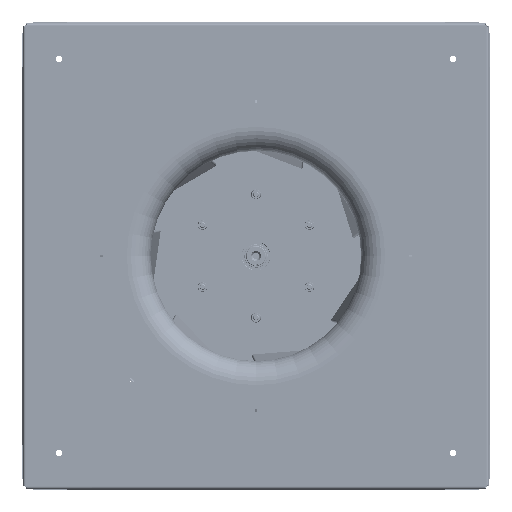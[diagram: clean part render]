
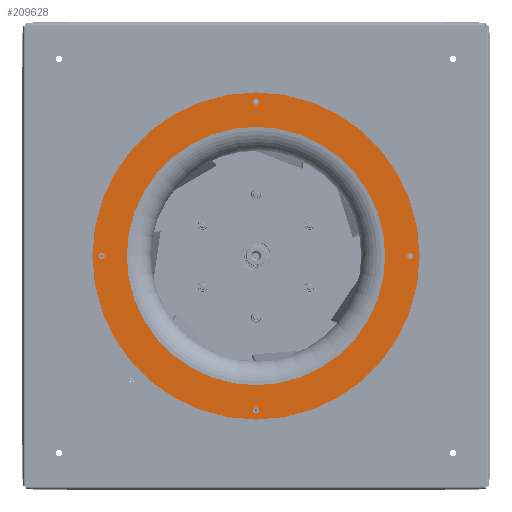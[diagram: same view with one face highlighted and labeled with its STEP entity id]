
A CAD part, front view. The second image highlights one B-rep face of the part: STEP entity #209628.
In plain terms, the highlighted planar face has unit normal (0, -1, 0) as drawn and (0, 0, 1) by its records, which use the part's own axes.
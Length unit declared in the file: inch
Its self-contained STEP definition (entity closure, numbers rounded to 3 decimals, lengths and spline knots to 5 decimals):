
#1523 = VERTEX_POINT ( 'NONE', #251458 ) ;
#1577 = DIRECTION ( 'NONE',  ( 0., 0., 1. ) ) ;
#3813 = AXIS2_PLACEMENT_3D ( 'NONE', #230648, #125898, #151287 ) ;
#6975 = CARTESIAN_POINT ( 'NONE',  ( 0.16732, 8.62205, 0. ) ) ;
#10372 = ORIENTED_EDGE ( 'NONE', *, *, #253133, .F. ) ;
#11961 = DIRECTION ( 'NONE',  ( 0., 0., 1. ) ) ;
#12713 = CARTESIAN_POINT ( 'NONE',  ( -7.21457, 0., 0. ) ) ;
#13969 = EDGE_CURVE ( 'NONE', #221953, #177735, #218700, .T. ) ;
#16168 = DIRECTION ( 'NONE',  ( 0., 0., 1. ) ) ;
#16776 = ORIENTED_EDGE ( 'NONE', *, *, #224734, .T. ) ;
#20802 = DIRECTION ( 'NONE',  ( 0., 0., 1. ) ) ;
#22500 = DIRECTION ( 'NONE',  ( 1., 0., 0. ) ) ;
#24568 = AXIS2_PLACEMENT_3D ( 'NONE', #122596, #16168, #193685 ) ;
#28400 = DIRECTION ( 'NONE',  ( 0., -1., 0. ) ) ;
#30239 = CARTESIAN_POINT ( 'NONE',  ( 9.13386, 0., 0. ) ) ;
#31761 = FACE_BOUND ( 'NONE', #266433, .T. ) ;
#32251 = AXIS2_PLACEMENT_3D ( 'NONE', #233144, #1577, #256834 ) ;
#35860 = CARTESIAN_POINT ( 'NONE',  ( 0., 0., 0. ) ) ;
#37544 = DIRECTION ( 'NONE',  ( 1., 0., 0. ) ) ;
#39710 = FACE_OUTER_BOUND ( 'NONE', #73704, .T. ) ;
#43337 = DIRECTION ( 'NONE',  ( 0., 0., 1. ) ) ;
#45141 = VERTEX_POINT ( 'NONE', #285716 ) ;
#47002 = DIRECTION ( 'NONE',  ( 1., 0., 0. ) ) ;
#47764 = AXIS2_PLACEMENT_3D ( 'NONE', #304632, #20802, #248963 ) ;
#48680 = EDGE_CURVE ( 'NONE', #70836, #187925, #49028, .T. ) ;
#49028 = CIRCLE ( 'NONE', #237866, 0.16732 ) ;
#51300 = AXIS2_PLACEMENT_3D ( 'NONE', #121040, #43337, #102357 ) ;
#51825 = CARTESIAN_POINT ( 'NONE',  ( -8.62205, 0., 0. ) ) ;
#52020 = CARTESIAN_POINT ( 'NONE',  ( -0.16732, -8.62205, 0. ) ) ;
#57725 = CARTESIAN_POINT ( 'NONE',  ( -8.62205, 0.16732, 0. ) ) ;
#65057 = FACE_BOUND ( 'NONE', #326275, .T. ) ;
#70836 = VERTEX_POINT ( 'NONE', #57725 ) ;
#71905 = EDGE_CURVE ( 'NONE', #315153, #45141, #264305, .T. ) ;
#73704 = EDGE_LOOP ( 'NONE', ( #16776, #135359 ) ) ;
#76566 = EDGE_CURVE ( 'NONE', #177735, #221953, #323901, .T. ) ;
#80395 = CARTESIAN_POINT ( 'NONE',  ( 8.62205, 0.16732, 0. ) ) ;
#83239 = AXIS2_PLACEMENT_3D ( 'NONE', #250681, #304692, #22500 ) ;
#83957 = CIRCLE ( 'NONE', #24568, 0.16732 ) ;
#84316 = CARTESIAN_POINT ( 'NONE',  ( 7.21457, 0., 0. ) ) ;
#87213 = EDGE_CURVE ( 'NONE', #205829, #142048, #94855, .T. ) ;
#94855 = CIRCLE ( 'NONE', #127134, 9.13386 ) ;
#95958 = AXIS2_PLACEMENT_3D ( 'NONE', #35860, #189658, #37544 ) ;
#102357 = DIRECTION ( 'NONE',  ( 1., 0., 0. ) ) ;
#111814 = VERTEX_POINT ( 'NONE', #84316 ) ;
#112616 = CIRCLE ( 'NONE', #47764, 0.16732 ) ;
#119888 = CARTESIAN_POINT ( 'NONE',  ( -9.13386, 0., 0. ) ) ;
#121040 = CARTESIAN_POINT ( 'NONE',  ( 0., 8.62205, 0. ) ) ;
#122596 = CARTESIAN_POINT ( 'NONE',  ( 8.62205, 0., 0. ) ) ;
#124415 = AXIS2_PLACEMENT_3D ( 'NONE', #246831, #11961, #219834 ) ;
#125898 = DIRECTION ( 'NONE',  ( 0., 0., 1. ) ) ;
#126344 = DIRECTION ( 'NONE',  ( 0., 0., 1. ) ) ;
#127134 = AXIS2_PLACEMENT_3D ( 'NONE', #138089, #241150, #301827 ) ;
#127857 = ORIENTED_EDGE ( 'NONE', *, *, #261963, .F. ) ;
#129493 = ORIENTED_EDGE ( 'NONE', *, *, #76566, .F. ) ;
#131729 = CIRCLE ( 'NONE', #83239, 7.21457 ) ;
#134852 = PLANE ( 'NONE',  #188840 ) ;
#135359 = ORIENTED_EDGE ( 'NONE', *, *, #87213, .T. ) ;
#136045 = EDGE_CURVE ( 'NONE', #111814, #215412, #241598, .T. ) ;
#138089 = CARTESIAN_POINT ( 'NONE',  ( 0., 0., 0. ) ) ;
#141097 = FACE_BOUND ( 'NONE', #316788, .T. ) ;
#142048 = VERTEX_POINT ( 'NONE', #30239 ) ;
#148045 = AXIS2_PLACEMENT_3D ( 'NONE', #325856, #126344, #47002 ) ;
#151287 = DIRECTION ( 'NONE',  ( -1., 0., 0. ) ) ;
#153819 = ORIENTED_EDGE ( 'NONE', *, *, #71905, .F. ) ;
#168142 = FACE_BOUND ( 'NONE', #255965, .T. ) ;
#177735 = VERTEX_POINT ( 'NONE', #6975 ) ;
#180402 = EDGE_CURVE ( 'NONE', #1523, #256276, #83957, .T. ) ;
#187925 = VERTEX_POINT ( 'NONE', #284603 ) ;
#188840 = AXIS2_PLACEMENT_3D ( 'NONE', #321868, #237907, #28400 ) ;
#189658 = DIRECTION ( 'NONE',  ( 0., 0., 1. ) ) ;
#193685 = DIRECTION ( 'NONE',  ( 0., -1., 0. ) ) ;
#199948 = CIRCLE ( 'NONE', #124415, 0.16732 ) ;
#205829 = VERTEX_POINT ( 'NONE', #119888 ) ;
#209628 = ADVANCED_FACE ( 'NONE', ( #288575, #65057, #168142, #141097, #31761, #39710 ), #134852, .F. ) ;
#214988 = CARTESIAN_POINT ( 'NONE',  ( -0.16732, 8.62205, 0. ) ) ;
#215412 = VERTEX_POINT ( 'NONE', #12713 ) ;
#216072 = AXIS2_PLACEMENT_3D ( 'NONE', #261516, #234499, #334250 ) ;
#218700 = CIRCLE ( 'NONE', #51300, 0.16732 ) ;
#219834 = DIRECTION ( 'NONE',  ( 0., 1., 0. ) ) ;
#221953 = VERTEX_POINT ( 'NONE', #214988 ) ;
#224734 = EDGE_CURVE ( 'NONE', #142048, #205829, #288104, .T. ) ;
#225353 = ORIENTED_EDGE ( 'NONE', *, *, #238535, .F. ) ;
#230648 = CARTESIAN_POINT ( 'NONE',  ( 0., -8.62205, 0. ) ) ;
#233144 = CARTESIAN_POINT ( 'NONE',  ( 0., -8.62205, 0. ) ) ;
#234499 = DIRECTION ( 'NONE',  ( 0., 0., 1. ) ) ;
#236226 = ORIENTED_EDGE ( 'NONE', *, *, #136045, .F. ) ;
#237866 = AXIS2_PLACEMENT_3D ( 'NONE', #51825, #315304, #283281 ) ;
#237907 = DIRECTION ( 'NONE',  ( 0., 0., -1. ) ) ;
#238535 = EDGE_CURVE ( 'NONE', #215412, #111814, #131729, .T. ) ;
#241150 = DIRECTION ( 'NONE',  ( 0., 0., 1. ) ) ;
#241598 = CIRCLE ( 'NONE', #95958, 7.21457 ) ;
#246831 = CARTESIAN_POINT ( 'NONE',  ( -8.62205, 0., 0. ) ) ;
#248963 = DIRECTION ( 'NONE',  ( 0., -1., 0. ) ) ;
#250681 = CARTESIAN_POINT ( 'NONE',  ( 0., 0., 0. ) ) ;
#251458 = CARTESIAN_POINT ( 'NONE',  ( 8.62205, -0.16732, 0. ) ) ;
#253133 = EDGE_CURVE ( 'NONE', #256276, #1523, #112616, .T. ) ;
#255965 = EDGE_LOOP ( 'NONE', ( #325058, #127857 ) ) ;
#256276 = VERTEX_POINT ( 'NONE', #80395 ) ;
#256834 = DIRECTION ( 'NONE',  ( -1., 0., 0. ) ) ;
#261516 = CARTESIAN_POINT ( 'NONE',  ( 0., 8.62205, 0. ) ) ;
#261963 = EDGE_CURVE ( 'NONE', #187925, #70836, #199948, .T. ) ;
#264305 = CIRCLE ( 'NONE', #32251, 0.16732 ) ;
#266433 = EDGE_LOOP ( 'NONE', ( #291171, #10372 ) ) ;
#270454 = ORIENTED_EDGE ( 'NONE', *, *, #13969, .F. ) ;
#283281 = DIRECTION ( 'NONE',  ( 0., 1., 0. ) ) ;
#284442 = EDGE_CURVE ( 'NONE', #45141, #315153, #295248, .T. ) ;
#284603 = CARTESIAN_POINT ( 'NONE',  ( -8.62205, -0.16732, 0. ) ) ;
#285716 = CARTESIAN_POINT ( 'NONE',  ( 0.16732, -8.62205, 0. ) ) ;
#288104 = CIRCLE ( 'NONE', #148045, 9.13386 ) ;
#288575 = FACE_BOUND ( 'NONE', #316638, .T. ) ;
#291171 = ORIENTED_EDGE ( 'NONE', *, *, #180402, .F. ) ;
#291825 = ORIENTED_EDGE ( 'NONE', *, *, #284442, .F. ) ;
#295248 = CIRCLE ( 'NONE', #3813, 0.16732 ) ;
#301827 = DIRECTION ( 'NONE',  ( 1., 0., 0. ) ) ;
#304632 = CARTESIAN_POINT ( 'NONE',  ( 8.62205, 0., 0. ) ) ;
#304692 = DIRECTION ( 'NONE',  ( 0., 0., 1. ) ) ;
#315153 = VERTEX_POINT ( 'NONE', #52020 ) ;
#315304 = DIRECTION ( 'NONE',  ( 0., 0., 1. ) ) ;
#316638 = EDGE_LOOP ( 'NONE', ( #236226, #225353 ) ) ;
#316788 = EDGE_LOOP ( 'NONE', ( #153819, #291825 ) ) ;
#321868 = CARTESIAN_POINT ( 'NONE',  ( 0., 9.13386, 0. ) ) ;
#323901 = CIRCLE ( 'NONE', #216072, 0.16732 ) ;
#325058 = ORIENTED_EDGE ( 'NONE', *, *, #48680, .F. ) ;
#325856 = CARTESIAN_POINT ( 'NONE',  ( 0., 0., 0. ) ) ;
#326275 = EDGE_LOOP ( 'NONE', ( #129493, #270454 ) ) ;
#334250 = DIRECTION ( 'NONE',  ( 1., 0., 0. ) ) ;
